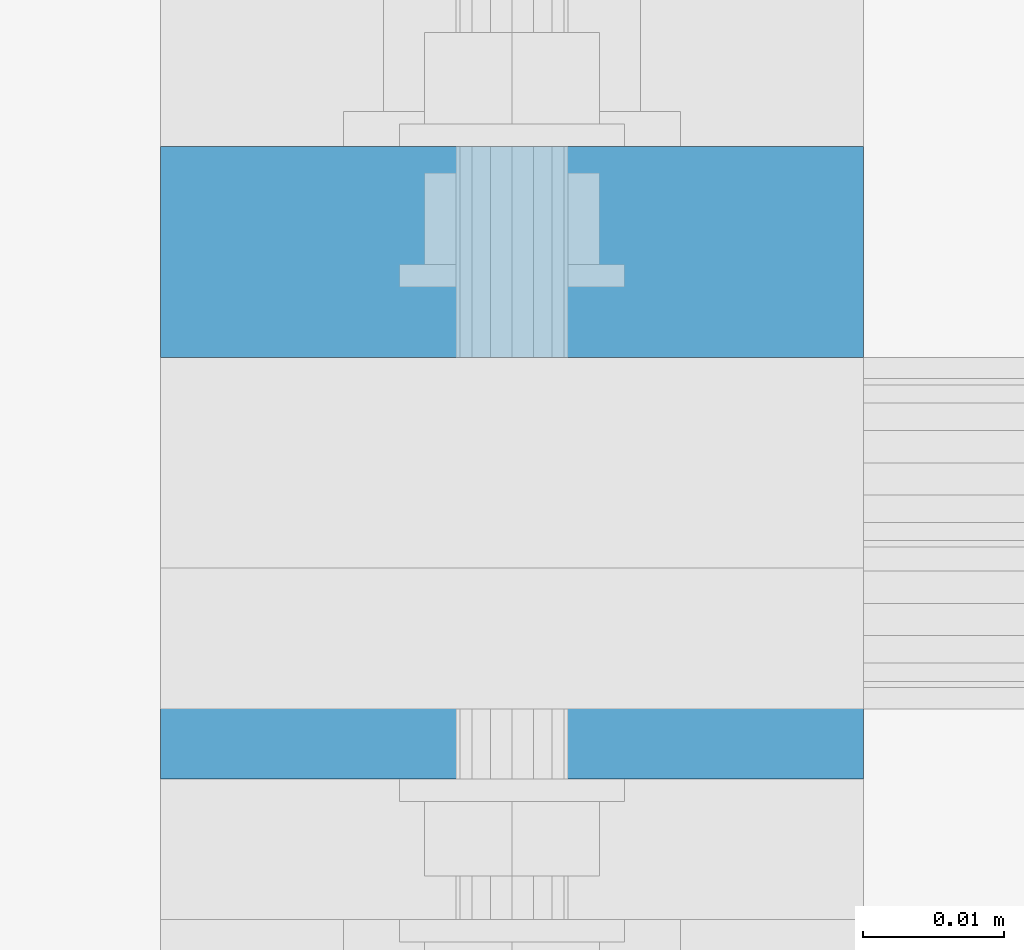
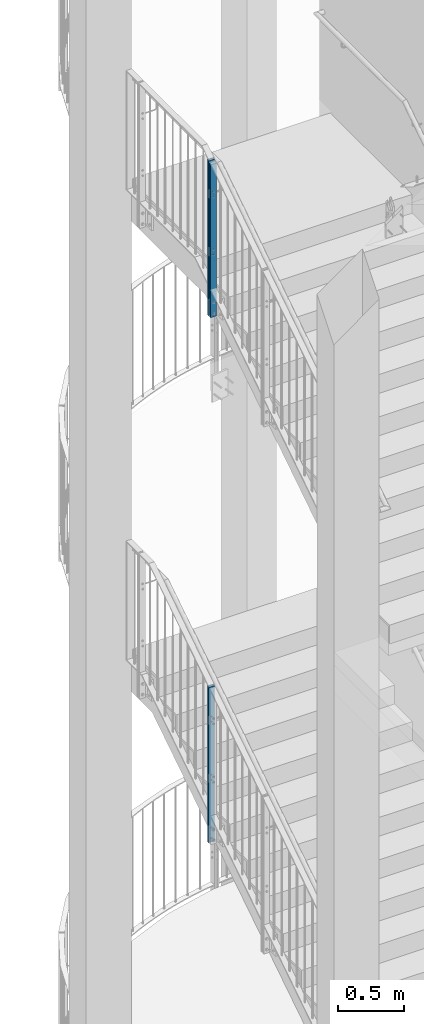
# One storey, part 18 of 296: 3 columns, 18 openings.
"""IFC2X3 building model written with IfcOpenShell, lengths in millimetres."""

from ifc_helpers import new_model, entity, si_unit, converted_unit, frame, frame_2d, origin, origin_with_axes, origin_2d, place, context, project, spatial, rectangle, circle, extrude, clip, halfspace, material, element, save


model = new_model("IFC2X3")

# Units and contexts
model_context = context("Model", 3, precision=1e-09, world=origin_with_axes())
ifc_project = project(units=[si_unit("LENGTHUNIT", "METRE", prefix="MILLI"), si_unit("AREAUNIT", "SQUARE_METRE"), si_unit("VOLUMEUNIT", "CUBIC_METRE"), converted_unit("PLANEANGLEUNIT", "DEGREE", entity("IfcPlaneAngleMeasure", 0.01745329), si_unit("PLANEANGLEUNIT", "RADIAN"), dimensions=[0, 0, 0, 0, 0, 0, 0])], contexts=[model_context])

# Site, building, storey
site_placement = place(None, origin_with_axes())
site = spatial("IfcSite", under=ifc_project, at=site_placement, Name="TZD-S?d | Treppenhausgel?nder", CompositionType="ELEMENT")
building_placement = place(site_placement, origin_with_axes())
building = spatial("IfcBuilding", under=site, at=building_placement, Name="Struktur 1", CompositionType="ELEMENT")
storey_placement = place(building_placement, origin_with_axes())
storey = spatial("IfcBuildingStorey", under=building, at=storey_placement, Name="Default Storey", CompositionType="ELEMENT", Elevation=0.0)

# Column, openings
ifc_material = material(Name="S235JR")
column_1_placement = place(None, frame((-45.0, -1545.0, 6404.999), z_axis=(0.0, 0.0, 1.0), x_axis=(0.0, 1.0, 0.0)))
column_1 = element("IfcColumn", 1, at=column_1_placement, inside=storey, material=ifc_material, Name="-", ObjectType="-", context=model_context, shape_type="Clipping", body=[
    clip(extrude(rectangle(XDim=15.0, YDim=50.0, at=origin_2d()), origin(), (0.0, 0.0, 1.0), 1486.154893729), halfspace(frame((-2487.321061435, -45.0, -155.81826061), z_axis=(0.542183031, 0.0, -0.840260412), x_axis=(0.0, 1.0, 0.0)), True)),
])
opening_1_placement = place(column_1_placement, frame((8.0, 0.0, 1141.986869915), z_axis=(-1.0, 0.0, 0.0), x_axis=(0.0, -1.0, 0.0)))
element("IfcOpeningElement", 2, at=opening_1_placement, cuts=column_1, ObjectType="Opening", context=model_context, shape_type="SweptSolid", body=[
    extrude(circle(Radius=5.001, at=frame_2d((0.0, 25.0), x_axis=(1.0, 0.0))), origin(), (0.0, 0.0, 1.0), 16.0),
])
opening_2_placement = place(column_1_placement, frame((8.0, 0.0, 1141.986869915), z_axis=(-1.0, 0.0, 0.0), x_axis=(0.0, -1.0, 0.0)))
element("IfcOpeningElement", 3, at=opening_2_placement, cuts=column_1, ObjectType="Opening", context=model_context, shape_type="SweptSolid", body=[
    extrude(circle(Radius=5.001, at=frame_2d((0.0, -25.0), x_axis=(1.0, 0.0))), origin(), (0.0, 0.0, 1.0), 16.0),
])
opening_3_placement = place(column_1_placement, frame((8.0, 0.0, 599.999999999), z_axis=(-1.0, 0.0, 0.0), x_axis=(0.0, -1.0, 0.0)))
element("IfcOpeningElement", 4, at=opening_3_placement, cuts=column_1, ObjectType="Opening", context=model_context, shape_type="SweptSolid", body=[
    extrude(circle(Radius=5.001, at=frame_2d((0.0, 25.0), x_axis=(1.0, 0.0))), origin(), (0.0, 0.0, 1.0), 16.0),
])
opening_4_placement = place(column_1_placement, frame((8.0, 0.0, 599.999999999), z_axis=(-1.0, 0.0, 0.0), x_axis=(0.0, -1.0, 0.0)))
element("IfcOpeningElement", 5, at=opening_4_placement, cuts=column_1, ObjectType="Opening", context=model_context, shape_type="SweptSolid", body=[
    extrude(circle(Radius=5.001, at=frame_2d((0.0, -25.0), x_axis=(1.0, 0.0))), origin(), (0.0, 0.0, 1.0), 16.0),
])
opening_5_placement = place(column_1_placement, frame((8.0, 0.0, 85.0), z_axis=(-1.0, 0.0, 0.0), x_axis=(0.0, -1.0, 0.0)))
element("IfcOpeningElement", 6, at=opening_5_placement, cuts=column_1, ObjectType="Opening", context=model_context, shape_type="SweptSolid", body=[
    extrude(circle(Radius=7.001, at=frame_2d((0.0, 50.0), x_axis=(1.0, 0.0))), origin(), (0.0, 0.0, 1.0), 16.0),
])
opening_6_placement = place(column_1_placement, frame((8.0, 0.0, 85.0), z_axis=(-1.0, 0.0, 0.0), x_axis=(0.0, -1.0, 0.0)))
element("IfcOpeningElement", 7, at=opening_6_placement, cuts=column_1, ObjectType="Opening", context=model_context, shape_type="SweptSolid", body=[
    extrude(circle(Radius=7.001, at=frame_2d((0.0, -50.0), x_axis=(1.0, 0.0))), origin(), (0.0, 0.0, 1.0), 16.0),
])

column_2_placement = place(None, frame((-45.0, -1545.0, 11304.999), z_axis=(0.0, 0.0, -1.0), x_axis=(0.0, -1.0, 0.0)))
column_2 = element("IfcColumn", 8, at=column_2_placement, inside=storey, material=ifc_material, Name="-", ObjectType="-", context=model_context, shape_type="Clipping", body=[
    clip(extrude(rectangle(XDim=15.0, YDim=50.0, at=origin_2d()), origin(), (0.0, 0.0, -1.0), 1476.378181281), halfspace(frame((4728.128925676, -45.0, 1615.908189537), z_axis=(-0.543478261, 0.0, 0.839423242), x_axis=(0.0, 1.0, 0.0)), True)),
])
opening_7_placement = place(column_2_placement, frame((-8.0, 0.0, -85.0), z_axis=(1.0, 0.0, 0.0), x_axis=(0.0, -1.0, 0.0)))
element("IfcOpeningElement", 9, at=opening_7_placement, cuts=column_2, ObjectType="Opening", context=model_context, shape_type="SweptSolid", body=[
    extrude(circle(Radius=7.001, at=frame_2d((0.0, 50.0), x_axis=(1.0, 0.0))), origin(), (0.0, 0.0, 1.0), 16.0),
])
opening_8_placement = place(column_2_placement, frame((-8.0, 0.0, -85.0), z_axis=(1.0, 0.0, 0.0), x_axis=(0.0, -1.0, 0.0)))
element("IfcOpeningElement", 10, at=opening_8_placement, cuts=column_2, ObjectType="Opening", context=model_context, shape_type="SweptSolid", body=[
    extrude(circle(Radius=7.001, at=frame_2d((0.0, -50.0), x_axis=(1.0, 0.0))), origin(), (0.0, 0.0, 1.0), 16.0),
])
opening_9_placement = place(column_2_placement, frame((-8.0, 0.0, -1138.072241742), z_axis=(1.0, 0.0, 0.0), x_axis=(0.0, -1.0, 0.0)))
element("IfcOpeningElement", 11, at=opening_9_placement, cuts=column_2, ObjectType="Opening", context=model_context, shape_type="SweptSolid", body=[
    extrude(circle(Radius=5.001, at=frame_2d((0.0, 25.0), x_axis=(1.0, 0.0))), origin(), (0.0, 0.0, 1.0), 16.0),
])
opening_10_placement = place(column_2_placement, frame((-8.0, 0.0, -1138.072241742), z_axis=(1.0, 0.0, 0.0), x_axis=(0.0, -1.0, 0.0)))
element("IfcOpeningElement", 12, at=opening_10_placement, cuts=column_2, ObjectType="Opening", context=model_context, shape_type="SweptSolid", body=[
    extrude(circle(Radius=5.001, at=frame_2d((0.0, -25.0), x_axis=(1.0, 0.0))), origin(), (0.0, 0.0, 1.0), 16.0),
])
opening_11_placement = place(column_2_placement, frame((-8.0, 0.0, -599.999999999), z_axis=(1.0, 0.0, 0.0), x_axis=(0.0, -1.0, 0.0)))
element("IfcOpeningElement", 13, at=opening_11_placement, cuts=column_2, ObjectType="Opening", context=model_context, shape_type="SweptSolid", body=[
    extrude(circle(Radius=5.001, at=frame_2d((0.0, 25.0), x_axis=(1.0, 0.0))), origin(), (0.0, 0.0, 1.0), 16.0),
])
opening_12_placement = place(column_2_placement, frame((-8.0, 0.0, -599.999999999), z_axis=(1.0, 0.0, 0.0), x_axis=(0.0, -1.0, 0.0)))
element("IfcOpeningElement", 14, at=opening_12_placement, cuts=column_2, ObjectType="Opening", context=model_context, shape_type="SweptSolid", body=[
    extrude(circle(Radius=5.001, at=frame_2d((0.0, -25.0), x_axis=(1.0, 0.0))), origin(), (0.0, 0.0, 1.0), 16.0),
])

column_3_placement = place(None, frame((-45.0, -1575.0, 11304.999), z_axis=(0.0, 0.0, 1.0), x_axis=(0.0, 1.0, 0.0)))
column_3 = element("IfcColumn", 15, at=column_3_placement, inside=storey, material=ifc_material, Name="-", ObjectType="-", context=model_context, shape_type="Clipping", body=[
    clip(extrude(rectangle(XDim=15.0, YDim=50.0, at=origin_2d()), origin(), (0.0, 0.0, 1.0), 1456.95490706), halfspace(frame((-4698.128925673, -45.0, -1615.908189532), z_axis=(0.543478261, 0.0, -0.839423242), x_axis=(0.0, 1.0, 0.0)), True)),
])
opening_13_placement = place(column_3_placement, frame((8.0, 0.0, 599.999999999), z_axis=(-1.0, 0.0, 0.0), x_axis=(0.0, -1.0, 0.0)))
element("IfcOpeningElement", 16, at=opening_13_placement, cuts=column_3, ObjectType="Opening", context=model_context, shape_type="SweptSolid", body=[
    extrude(circle(Radius=5.001, at=frame_2d((0.0, 25.0), x_axis=(1.0, 0.0))), origin(), (0.0, 0.0, 1.0), 16.0),
])
opening_14_placement = place(column_3_placement, frame((8.0, 0.0, 599.999999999), z_axis=(-1.0, 0.0, 0.0), x_axis=(0.0, -1.0, 0.0)))
element("IfcOpeningElement", 17, at=opening_14_placement, cuts=column_3, ObjectType="Opening", context=model_context, shape_type="SweptSolid", body=[
    extrude(circle(Radius=5.001, at=frame_2d((0.0, -25.0), x_axis=(1.0, 0.0))), origin(), (0.0, 0.0, 1.0), 16.0),
])
opening_15_placement = place(column_3_placement, frame((8.0, 0.0, 1138.072241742), z_axis=(-1.0, 0.0, 0.0), x_axis=(0.0, -1.0, 0.0)))
element("IfcOpeningElement", 18, at=opening_15_placement, cuts=column_3, ObjectType="Opening", context=model_context, shape_type="SweptSolid", body=[
    extrude(circle(Radius=5.001, at=frame_2d((0.0, 25.0), x_axis=(1.0, 0.0))), origin(), (0.0, 0.0, 1.0), 16.0),
])
opening_16_placement = place(column_3_placement, frame((8.0, 0.0, 1138.072241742), z_axis=(-1.0, 0.0, 0.0), x_axis=(0.0, -1.0, 0.0)))
element("IfcOpeningElement", 19, at=opening_16_placement, cuts=column_3, ObjectType="Opening", context=model_context, shape_type="SweptSolid", body=[
    extrude(circle(Radius=5.001, at=frame_2d((0.0, -25.0), x_axis=(1.0, 0.0))), origin(), (0.0, 0.0, 1.0), 16.0),
])
opening_17_placement = place(column_3_placement, frame((8.0, 0.0, 85.0), z_axis=(-1.0, 0.0, 0.0), x_axis=(0.0, -1.0, 0.0)))
element("IfcOpeningElement", 20, at=opening_17_placement, cuts=column_3, ObjectType="Opening", context=model_context, shape_type="SweptSolid", body=[
    extrude(circle(Radius=7.001, at=frame_2d((0.0, 50.0), x_axis=(1.0, 0.0))), origin(), (0.0, 0.0, 1.0), 16.0),
])
opening_18_placement = place(column_3_placement, frame((8.0, 0.0, 85.0), z_axis=(-1.0, 0.0, 0.0), x_axis=(0.0, -1.0, 0.0)))
element("IfcOpeningElement", 21, at=opening_18_placement, cuts=column_3, ObjectType="Opening", context=model_context, shape_type="SweptSolid", body=[
    extrude(circle(Radius=7.001, at=frame_2d((0.0, -50.0), x_axis=(1.0, 0.0))), origin(), (0.0, 0.0, 1.0), 16.0),
])

save(model, "model.ifc")
